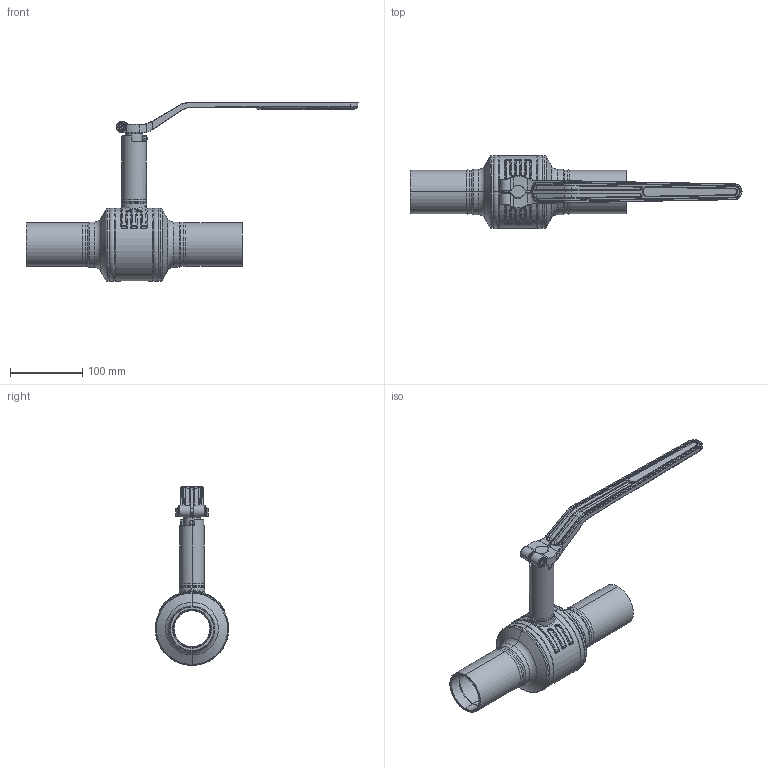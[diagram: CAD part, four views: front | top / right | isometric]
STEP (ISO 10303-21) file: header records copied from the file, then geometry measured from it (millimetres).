
FILE_DESCRIPTION((''),'2;1');
FILE_NAME('KHMO-S-V-H-050P040-VI_SW0001','2022-10-19T08:26:03',('jeitlers'),('KLINGER'),'CREO PARAMETRIC BY PTC INC, 2020184','CREO PARAMETRIC BY PTC INC, 2020184','');
FILE_SCHEMA(('AUTOMOTIVE_DESIGN { 1 0 10303 214 1 1 1 1 }'));
Length unit declared in the file: millimetre
Products named in the file (1): KHMO-S-V-H-050P040-VI_SW0001
Bounding box: 460.8 x 101.91 x 248.25 mm (x, y, z)
Volume: 731835 mm3; surface area: 246292.7 mm2
Topology: 3 solids, 3 shells, 976 faces, 2264 edges, 1303 vertices
Faces by surface type: cylinder 308, bspline 208, torus 190, plane 155, cone 98, extrusion 8, sphere 8, revolution 1
Entity records: 55950 total; most frequent: CARTESIAN_POINT 33874, ORIENTED_EDGE 4510, DIRECTION 4285, EDGE_CURVE 2255, AXIS2_PLACEMENT_3D 1809, VERTEX_POINT 1303, CIRCLE 1036, EDGE_LOOP 1018
